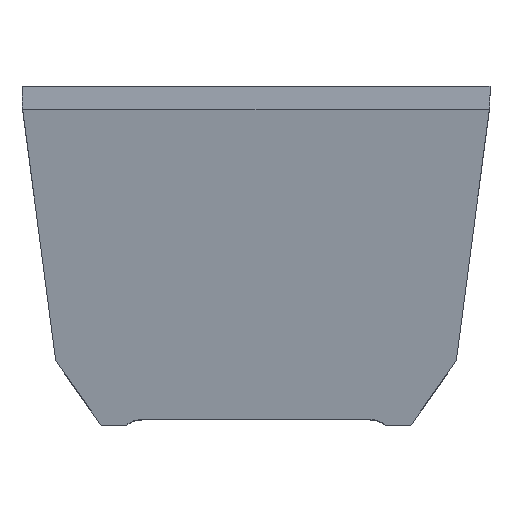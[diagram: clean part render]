
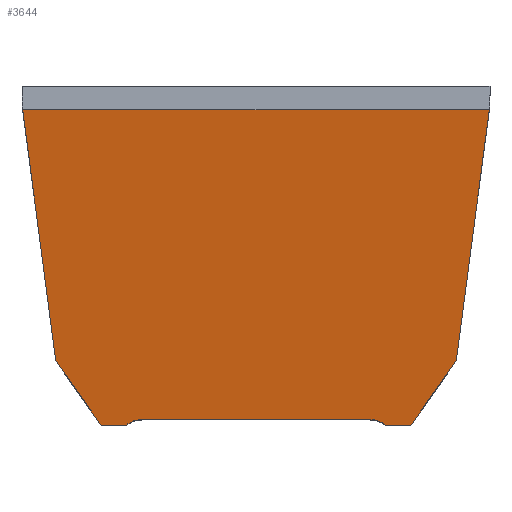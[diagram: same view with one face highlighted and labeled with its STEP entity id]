
A CAD part, top view. The second image highlights one B-rep face of the part: STEP entity #3644.
In plain terms, the highlighted planar face has unit normal (0, -0.147, 0.989).
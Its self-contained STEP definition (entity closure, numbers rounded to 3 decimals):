
#48 = VECTOR ( 'NONE', #3710, 1000. ) ;
#49 = LINE ( 'NONE', #3703, #48 ) ;
#53 = VECTOR ( 'NONE', #3692, 1000. ) ;
#54 = LINE ( 'NONE', #3691, #53 ) ;
#89 = VECTOR ( 'NONE', #1586, 1000. ) ;
#90 = LINE ( 'NONE', #1587, #89 ) ;
#96 = VECTOR ( 'NONE', #1594, 1000. ) ;
#104 = LINE ( 'NONE', #1610, #96 ) ;
#156 = LINE ( 'NONE', #1652, #157 ) ;
#157 = VECTOR ( 'NONE', #1647, 1000. ) ;
#163 = VECTOR ( 'NONE', #1658, 1000. ) ;
#168 = LINE ( 'NONE', #1661, #163 ) ;
#169 = VECTOR ( 'NONE', #1664, 1000. ) ;
#179 = LINE ( 'NONE', #1667, #169 ) ;
#188 = LINE ( 'NONE', #1679, #201 ) ;
#201 = VECTOR ( 'NONE', #1678, 1000. ) ;
#634 = ORIENTED_EDGE ( 'NONE', *, *, #1397, .F. ) ;
#635 = ORIENTED_EDGE ( 'NONE', *, *, #1379, .F. ) ;
#636 = ORIENTED_EDGE ( 'NONE', *, *, #1355, .F. ) ;
#637 = ORIENTED_EDGE ( 'NONE', *, *, #1189, .F. ) ;
#638 = ORIENTED_EDGE ( 'NONE', *, *, #1307, .F. ) ;
#639 = ORIENTED_EDGE ( 'NONE', *, *, #1211, .T. ) ;
#640 = ORIENTED_EDGE ( 'NONE', *, *, #1233, .F. ) ;
#641 = ORIENTED_EDGE ( 'NONE', *, *, #1310, .F. ) ;
#642 = ORIENTED_EDGE ( 'NONE', *, *, #1354, .F. ) ;
#643 = ORIENTED_EDGE ( 'NONE', *, *, #1214, .T. ) ;
#644 = ORIENTED_EDGE ( 'NONE', *, *, #1377, .F. ) ;
#645 = ORIENTED_EDGE ( 'NONE', *, *, #1234, .F. ) ;
#712 = EDGE_LOOP ( 'NONE', ( #645, #644, #643, #642, #641, #640, #639, #638, #637, #636, #635, #634 ) ) ;
#1107 = FACE_OUTER_BOUND ( 'NONE', #712, .T. ) ;
#1189 = EDGE_CURVE ( 'NONE', #1871, #1832, #188, .T. ) ;
#1211 = EDGE_CURVE ( 'NONE', #1880, #1863, #179, .T. ) ;
#1214 = EDGE_CURVE ( 'NONE', #1713, #1812, #168, .T. ) ;
#1233 = EDGE_CURVE ( 'NONE', #1880, #1726, #1917, .T. ) ;
#1234 = EDGE_CURVE ( 'NONE', #1851, #1823, #156, .T. ) ;
#1242 = AXIS2_PLACEMENT_3D ( 'NONE', #2221, #2212, #2211 ) ;
#1307 = EDGE_CURVE ( 'NONE', #1832, #1863, #104, .T. ) ;
#1310 = EDGE_CURVE ( 'NONE', #1726, #1723, #90, .T. ) ;
#1354 = EDGE_CURVE ( 'NONE', #1723, #1812, #1918, .T. ) ;
#1355 = EDGE_CURVE ( 'NONE', #1771, #1871, #1916, .T. ) ;
#1377 = EDGE_CURVE ( 'NONE', #1713, #1851, #49, .T. ) ;
#1379 = EDGE_CURVE ( 'NONE', #1892, #1771, #54, .T. ) ;
#1397 = EDGE_CURVE ( 'NONE', #1823, #1892, #1919, .T. ) ;
#1538 = CARTESIAN_POINT ( 'NONE',  ( 45.038, 56.041, 34.149 ) ) ;
#1539 = CARTESIAN_POINT ( 'NONE',  ( 45.077, 56.383, 34.199 ) ) ;
#1541 = CARTESIAN_POINT ( 'NONE',  ( -25.117, -4.3, 25.206 ) ) ;
#1542 = CARTESIAN_POINT ( 'NONE',  ( -24.223, -3.587, 25.312 ) ) ;
#1543 = CARTESIAN_POINT ( 'NONE',  ( -23.144, -3.21, 25.368 ) ) ;
#1546 = CARTESIAN_POINT ( 'NONE',  ( 45.11, 56.725, 34.25 ) ) ;
#1550 = CARTESIAN_POINT ( 'NONE',  ( -22., -3.21, 25.368 ) ) ;
#1586 = DIRECTION ( 'NONE',  ( -1., 0., 0. ) ) ;
#1587 = CARTESIAN_POINT ( 'NONE',  ( -22., -3.21, 25.368 ) ) ;
#1594 = DIRECTION ( 'NONE',  ( -0.569, -0.813, -0.121 ) ) ;
#1610 = CARTESIAN_POINT ( 'NONE',  ( 38.099, 7.317, 26.928 ) ) ;
#1647 = DIRECTION ( 'NONE',  ( -0.129, 0.981, 0.145 ) ) ;
#1649 = CARTESIAN_POINT ( 'NONE',  ( 22., -3.21, 25.368 ) ) ;
#1650 = CARTESIAN_POINT ( 'NONE',  ( 23.144, -3.21, 25.368 ) ) ;
#1651 = CARTESIAN_POINT ( 'NONE',  ( 24.223, -3.587, 25.312 ) ) ;
#1652 = CARTESIAN_POINT ( 'NONE',  ( -44.686, 53.369, 33.753 ) ) ;
#1654 = CARTESIAN_POINT ( 'NONE',  ( 25.117, -4.3, 25.206 ) ) ;
#1658 = DIRECTION ( 'NONE',  ( 1., 0., 0. ) ) ;
#1661 = CARTESIAN_POINT ( 'NONE',  ( -187.835, -4.3, 25.206 ) ) ;
#1664 = DIRECTION ( 'NONE',  ( 1., 0., 0. ) ) ;
#1667 = CARTESIAN_POINT ( 'NONE',  ( -187.835, -4.3, 25.206 ) ) ;
#1678 = DIRECTION ( 'NONE',  ( -0.129, -0.981, -0.145 ) ) ;
#1679 = CARTESIAN_POINT ( 'NONE',  ( 44.686, 53.369, 33.753 ) ) ;
#1713 = VERTEX_POINT ( 'NONE', #2888 ) ;
#1723 = VERTEX_POINT ( 'NONE', #2865 ) ;
#1726 = VERTEX_POINT ( 'NONE', #2857 ) ;
#1771 = VERTEX_POINT ( 'NONE', #2731 ) ;
#1812 = VERTEX_POINT ( 'NONE', #2589 ) ;
#1823 = VERTEX_POINT ( 'NONE', #2558 ) ;
#1832 = VERTEX_POINT ( 'NONE', #2536 ) ;
#1851 = VERTEX_POINT ( 'NONE', #2483 ) ;
#1863 = VERTEX_POINT ( 'NONE', #2454 ) ;
#1871 = VERTEX_POINT ( 'NONE', #2426 ) ;
#1880 = VERTEX_POINT ( 'NONE', #2404 ) ;
#1892 = VERTEX_POINT ( 'NONE', #2373 ) ;
#1916 =( BOUNDED_CURVE ( )  B_SPLINE_CURVE ( 3, ( #1546, #1539, #1538, #3686 ),
 .UNSPECIFIED., .F., .T. ) 
 B_SPLINE_CURVE_WITH_KNOTS ( ( 4, 4 ),
 ( 1.667, 1.702 ),
 .UNSPECIFIED. ) 
 CURVE ( )  GEOMETRIC_REPRESENTATION_ITEM ( )  RATIONAL_B_SPLINE_CURVE ( ( 1., 1., 1., 1. ) ) 
 REPRESENTATION_ITEM ( '' )  );
#1917 =( BOUNDED_CURVE ( )  B_SPLINE_CURVE ( 3, ( #1654, #1651, #1650, #1649 ),
 .UNSPECIFIED., .F., .T. ) 
 B_SPLINE_CURVE_WITH_KNOTS ( ( 4, 4 ),
 ( 5.61, 6.283 ),
 .UNSPECIFIED. ) 
 CURVE ( )  GEOMETRIC_REPRESENTATION_ITEM ( )  RATIONAL_B_SPLINE_CURVE ( ( 1., 0.963, 0.963, 1. ) ) 
 REPRESENTATION_ITEM ( '' )  );
#1918 =( BOUNDED_CURVE ( )  B_SPLINE_CURVE ( 3, ( #1550, #1543, #1542, #1541 ),
 .UNSPECIFIED., .F., .T. ) 
 B_SPLINE_CURVE_WITH_KNOTS ( ( 4, 4 ),
 ( 0., 0.673 ),
 .UNSPECIFIED. ) 
 CURVE ( )  GEOMETRIC_REPRESENTATION_ITEM ( )  RATIONAL_B_SPLINE_CURVE ( ( 1., 0.963, 0.963, 1. ) ) 
 REPRESENTATION_ITEM ( '' )  );
#1919 =( BOUNDED_CURVE ( )  B_SPLINE_CURVE ( 3, ( #3708, #3696, #3695, #3694 ),
 .UNSPECIFIED., .F., .T. ) 
 B_SPLINE_CURVE_WITH_KNOTS ( ( 4, 4 ),
 ( 4.581, 4.616 ),
 .UNSPECIFIED. ) 
 CURVE ( )  GEOMETRIC_REPRESENTATION_ITEM ( )  RATIONAL_B_SPLINE_CURVE ( ( 1., 1., 1., 1. ) ) 
 REPRESENTATION_ITEM ( '' )  );
#2211 = DIRECTION ( 'NONE',  ( 0., -0.989, -0.147 ) ) ;
#2212 = DIRECTION ( 'NONE',  ( 0., 0.147, -0.989 ) ) ;
#2221 = CARTESIAN_POINT ( 'NONE',  ( -187.835, 56.725, 34.25 ) ) ;
#2226 = PLANE ( 'NONE',  #1242 ) ;
#2373 = CARTESIAN_POINT ( 'NONE',  ( -45.11, 56.725, 34.25 ) ) ;
#2404 = CARTESIAN_POINT ( 'NONE',  ( 25.117, -4.3, 25.206 ) ) ;
#2426 = CARTESIAN_POINT ( 'NONE',  ( 44.993, 55.7, 34.098 ) ) ;
#2454 = CARTESIAN_POINT ( 'NONE',  ( 29.972, -4.3, 25.206 ) ) ;
#2483 = CARTESIAN_POINT ( 'NONE',  ( -38.738, 8.23, 27.063 ) ) ;
#2536 = CARTESIAN_POINT ( 'NONE',  ( 38.738, 8.23, 27.063 ) ) ;
#2558 = CARTESIAN_POINT ( 'NONE',  ( -44.993, 55.7, 34.098 ) ) ;
#2589 = CARTESIAN_POINT ( 'NONE',  ( -25.117, -4.3, 25.206 ) ) ;
#2731 = CARTESIAN_POINT ( 'NONE',  ( 45.11, 56.725, 34.25 ) ) ;
#2857 = CARTESIAN_POINT ( 'NONE',  ( 22., -3.21, 25.368 ) ) ;
#2865 = CARTESIAN_POINT ( 'NONE',  ( -22., -3.21, 25.368 ) ) ;
#2888 = CARTESIAN_POINT ( 'NONE',  ( -29.972, -4.3, 25.206 ) ) ;
#3644 = ADVANCED_FACE ( 'NONE', ( #1107 ), #2226, .F. ) ;
#3686 = CARTESIAN_POINT ( 'NONE',  ( 44.993, 55.7, 34.098 ) ) ;
#3691 = CARTESIAN_POINT ( 'NONE',  ( -15.25, 56.725, 34.25 ) ) ;
#3692 = DIRECTION ( 'NONE',  ( 1., 0., 0. ) ) ;
#3694 = CARTESIAN_POINT ( 'NONE',  ( -45.11, 56.725, 34.25 ) ) ;
#3695 = CARTESIAN_POINT ( 'NONE',  ( -45.077, 56.383, 34.199 ) ) ;
#3696 = CARTESIAN_POINT ( 'NONE',  ( -45.038, 56.041, 34.149 ) ) ;
#3703 = CARTESIAN_POINT ( 'NONE',  ( -38.099, 7.317, 26.928 ) ) ;
#3708 = CARTESIAN_POINT ( 'NONE',  ( -44.993, 55.7, 34.098 ) ) ;
#3710 = DIRECTION ( 'NONE',  ( -0.569, 0.813, 0.121 ) ) ;
